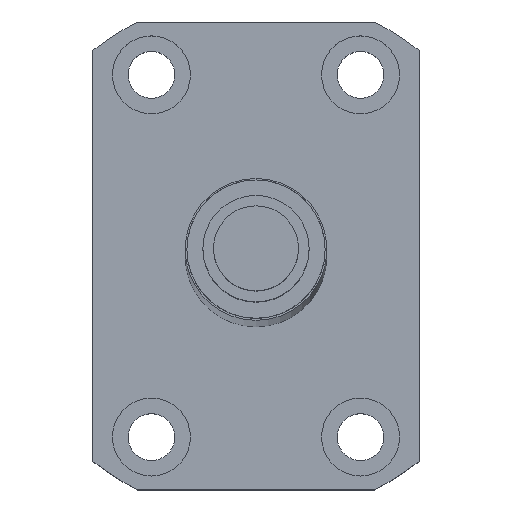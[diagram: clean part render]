
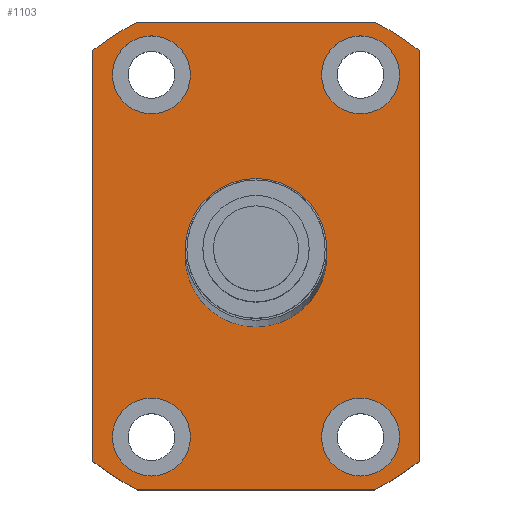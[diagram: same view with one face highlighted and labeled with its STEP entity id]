
A CAD part, top view. The second image highlights one B-rep face of the part: STEP entity #1103.
In plain terms, the highlighted planar face has unit normal (0, 0, 1).
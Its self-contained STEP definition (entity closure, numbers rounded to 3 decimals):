
#30=CARTESIAN_POINT('',(0.,0.,28.5));
#31=DIRECTION('',(0.,0.,1.));
#32=DIRECTION('',(1.,0.,0.));
#33=AXIS2_PLACEMENT_3D('',#30,#31,#32);
#165=DIRECTION('',(0.,-1.,0.));
#166=VECTOR('',#165,57.966);
#167=CARTESIAN_POINT('',(23.,28.983,28.5));
#168=LINE('',#167,#166);
#169=CARTESIAN_POINT('',(0.,0.,28.5));
#170=DIRECTION('',(0.,0.,1.));
#171=DIRECTION('',(0.452,-0.892,0.));
#172=AXIS2_PLACEMENT_3D('',#169,#170,#171);
#174=DIRECTION('',(1.,0.,0.));
#175=VECTOR('',#174,33.466);
#176=CARTESIAN_POINT('',(-16.733,-33.,28.5));
#177=LINE('',#176,#175);
#178=CARTESIAN_POINT('',(0.,0.,28.5));
#179=DIRECTION('',(0.,0.,1.));
#180=DIRECTION('',(-0.622,-0.783,0.));
#181=AXIS2_PLACEMENT_3D('',#178,#179,#180);
#183=DIRECTION('',(0.,1.,0.));
#184=VECTOR('',#183,57.966);
#185=CARTESIAN_POINT('',(-23.,-28.983,28.5));
#186=LINE('',#185,#184);
#187=CARTESIAN_POINT('',(0.,0.,28.5));
#188=DIRECTION('',(0.,0.,1.));
#189=DIRECTION('',(-0.452,0.892,0.));
#190=AXIS2_PLACEMENT_3D('',#187,#188,#189);
#192=DIRECTION('',(-1.,0.,0.));
#193=VECTOR('',#192,33.466);
#194=CARTESIAN_POINT('',(16.733,33.,28.5));
#195=LINE('',#194,#193);
#196=CARTESIAN_POINT('',(0.,0.,28.5));
#197=DIRECTION('',(0.,0.,1.));
#198=DIRECTION('',(0.622,0.783,0.));
#199=AXIS2_PLACEMENT_3D('',#196,#197,#198);
#201=CARTESIAN_POINT('',(14.75,25.548,28.5));
#202=DIRECTION('',(0.,0.,1.));
#203=DIRECTION('',(1.,0.,0.));
#204=AXIS2_PLACEMENT_3D('',#201,#202,#203);
#206=CARTESIAN_POINT('',(14.75,25.548,28.5));
#207=DIRECTION('',(0.,0.,1.));
#208=DIRECTION('',(-1.,0.,0.));
#209=AXIS2_PLACEMENT_3D('',#206,#207,#208);
#211=CARTESIAN_POINT('',(-14.75,25.548,28.5));
#212=DIRECTION('',(0.,0.,1.));
#213=DIRECTION('',(0.5,0.866,0.));
#214=AXIS2_PLACEMENT_3D('',#211,#212,#213);
#216=CARTESIAN_POINT('',(-14.75,25.548,28.5));
#217=DIRECTION('',(0.,0.,1.));
#218=DIRECTION('',(-0.5,-0.866,0.));
#219=AXIS2_PLACEMENT_3D('',#216,#217,#218);
#221=CARTESIAN_POINT('',(-14.75,-25.548,28.5));
#222=DIRECTION('',(0.,0.,1.));
#223=DIRECTION('',(-1.,0.,0.));
#224=AXIS2_PLACEMENT_3D('',#221,#222,#223);
#226=CARTESIAN_POINT('',(-14.75,-25.548,28.5));
#227=DIRECTION('',(0.,0.,1.));
#228=DIRECTION('',(1.,0.,0.));
#229=AXIS2_PLACEMENT_3D('',#226,#227,#228);
#231=CARTESIAN_POINT('',(14.75,-25.548,28.5));
#232=DIRECTION('',(0.,0.,1.));
#233=DIRECTION('',(-0.5,-0.866,0.));
#234=AXIS2_PLACEMENT_3D('',#231,#232,#233);
#236=CARTESIAN_POINT('',(14.75,-25.548,28.5));
#237=DIRECTION('',(0.,0.,1.));
#238=DIRECTION('',(0.5,0.866,0.));
#239=AXIS2_PLACEMENT_3D('',#236,#237,#238);
#250=CARTESIAN_POINT('',(0.,0.,28.5));
#251=DIRECTION('',(0.,0.,1.));
#252=DIRECTION('',(-1.,0.,0.));
#253=AXIS2_PLACEMENT_3D('',#250,#251,#252);
#757=CARTESIAN_POINT('',(10.,0.,28.5));
#758=CARTESIAN_POINT('',(-10.,0.,28.5));
#759=VERTEX_POINT('',#757);
#760=VERTEX_POINT('',#758);
#761=CARTESIAN_POINT('',(-23.,-28.983,28.5));
#762=CARTESIAN_POINT('',(-16.733,-33.,28.5));
#763=VERTEX_POINT('',#761);
#764=VERTEX_POINT('',#762);
#765=CARTESIAN_POINT('',(16.733,-33.,28.5));
#766=VERTEX_POINT('',#765);
#767=CARTESIAN_POINT('',(23.,-28.983,28.5));
#768=VERTEX_POINT('',#767);
#769=CARTESIAN_POINT('',(23.,28.983,28.5));
#770=CARTESIAN_POINT('',(16.733,33.,28.5));
#771=VERTEX_POINT('',#769);
#772=VERTEX_POINT('',#770);
#773=CARTESIAN_POINT('',(-16.733,33.,28.5));
#774=VERTEX_POINT('',#773);
#775=CARTESIAN_POINT('',(-23.,28.983,28.5));
#776=VERTEX_POINT('',#775);
#821=CARTESIAN_POINT('',(20.25,25.548,28.5));
#822=CARTESIAN_POINT('',(9.25,25.548,28.5));
#823=VERTEX_POINT('',#821);
#824=VERTEX_POINT('',#822);
#829=CARTESIAN_POINT('',(-12.,30.311,28.5));
#830=CARTESIAN_POINT('',(-17.5,20.785,28.5));
#831=VERTEX_POINT('',#829);
#832=VERTEX_POINT('',#830);
#841=CARTESIAN_POINT('',(-20.25,-25.548,28.5));
#842=CARTESIAN_POINT('',(-9.25,-25.548,28.5));
#843=VERTEX_POINT('',#841);
#844=VERTEX_POINT('',#842);
#853=CARTESIAN_POINT('',(12.,-30.311,28.5));
#854=CARTESIAN_POINT('',(17.5,-20.785,28.5));
#855=VERTEX_POINT('',#853);
#856=VERTEX_POINT('',#854);
#1052=CARTESIAN_POINT('',(0.,0.,28.5));
#1053=DIRECTION('',(0.,0.,1.));
#1054=DIRECTION('',(1.,0.,0.));
#1055=AXIS2_PLACEMENT_3D('',#1052,#1053,#1054);
#1056=PLANE('',#1055);
#1058=ORIENTED_EDGE('',*,*,#1057,.T.);
#1060=ORIENTED_EDGE('',*,*,#1059,.F.);
#1062=ORIENTED_EDGE('',*,*,#1061,.F.);
#1064=ORIENTED_EDGE('',*,*,#1063,.F.);
#1066=ORIENTED_EDGE('',*,*,#1065,.T.);
#1068=ORIENTED_EDGE('',*,*,#1067,.F.);
#1070=ORIENTED_EDGE('',*,*,#1069,.F.);
#1072=ORIENTED_EDGE('',*,*,#1071,.F.);
#1073=EDGE_LOOP('',(#1058,#1060,#1062,#1064,#1066,#1068,#1070,#1072));
#1074=FACE_OUTER_BOUND('',#1073,.F.);
#1075=ORIENTED_EDGE('',*,*,#899,.T.);
#1077=ORIENTED_EDGE('',*,*,#1076,.T.);
#1078=EDGE_LOOP('',(#1075,#1077));
#1079=FACE_BOUND('',#1078,.F.);
#1080=ORIENTED_EDGE('',*,*,#1042,.T.);
#1082=ORIENTED_EDGE('',*,*,#1081,.T.);
#1083=EDGE_LOOP('',(#1080,#1082));
#1084=FACE_BOUND('',#1083,.F.);
#1086=ORIENTED_EDGE('',*,*,#1085,.T.);
#1088=ORIENTED_EDGE('',*,*,#1087,.T.);
#1089=EDGE_LOOP('',(#1086,#1088));
#1090=FACE_BOUND('',#1089,.F.);
#1092=ORIENTED_EDGE('',*,*,#1091,.T.);
#1094=ORIENTED_EDGE('',*,*,#1093,.T.);
#1095=EDGE_LOOP('',(#1092,#1094));
#1096=FACE_BOUND('',#1095,.F.);
#1098=ORIENTED_EDGE('',*,*,#1097,.T.);
#1100=ORIENTED_EDGE('',*,*,#1099,.T.);
#1101=EDGE_LOOP('',(#1098,#1100));
#1102=FACE_BOUND('',#1101,.F.);
#1103=ADVANCED_FACE('',(#1074,#1079,#1084,#1090,#1096,#1102),#1056,.T.);
#34=CIRCLE('',#33,10.);
#173=CIRCLE('',#172,37.);
#182=CIRCLE('',#181,37.);
#191=CIRCLE('',#190,37.);
#200=CIRCLE('',#199,37.);
#205=CIRCLE('',#204,5.5);
#210=CIRCLE('',#209,5.5);
#215=CIRCLE('',#214,5.5);
#220=CIRCLE('',#219,5.5);
#225=CIRCLE('',#224,5.5);
#230=CIRCLE('',#229,5.5);
#235=CIRCLE('',#234,5.5);
#240=CIRCLE('',#239,5.5);
#254=CIRCLE('',#253,10.);
#899=EDGE_CURVE('',#759,#760,#34,.T.);
#1042=EDGE_CURVE('',#823,#824,#205,.T.);
#1057=EDGE_CURVE('',#771,#768,#168,.T.);
#1059=EDGE_CURVE('',#766,#768,#173,.T.);
#1061=EDGE_CURVE('',#764,#766,#177,.T.);
#1063=EDGE_CURVE('',#763,#764,#182,.T.);
#1065=EDGE_CURVE('',#763,#776,#186,.T.);
#1067=EDGE_CURVE('',#774,#776,#191,.T.);
#1069=EDGE_CURVE('',#772,#774,#195,.T.);
#1071=EDGE_CURVE('',#771,#772,#200,.T.);
#1076=EDGE_CURVE('',#760,#759,#254,.T.);
#1081=EDGE_CURVE('',#824,#823,#210,.T.);
#1085=EDGE_CURVE('',#831,#832,#215,.T.);
#1087=EDGE_CURVE('',#832,#831,#220,.T.);
#1091=EDGE_CURVE('',#843,#844,#225,.T.);
#1093=EDGE_CURVE('',#844,#843,#230,.T.);
#1097=EDGE_CURVE('',#855,#856,#235,.T.);
#1099=EDGE_CURVE('',#856,#855,#240,.T.);
